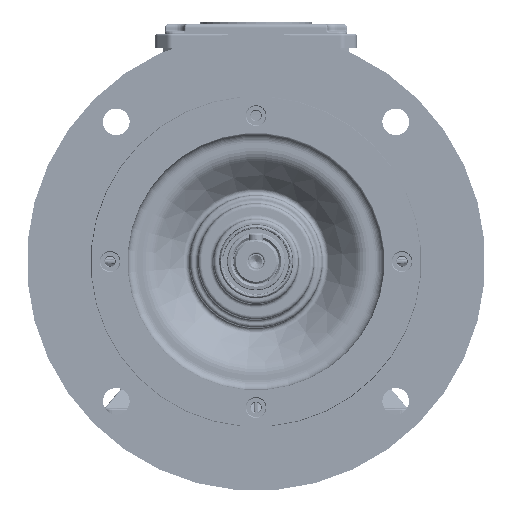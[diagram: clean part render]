
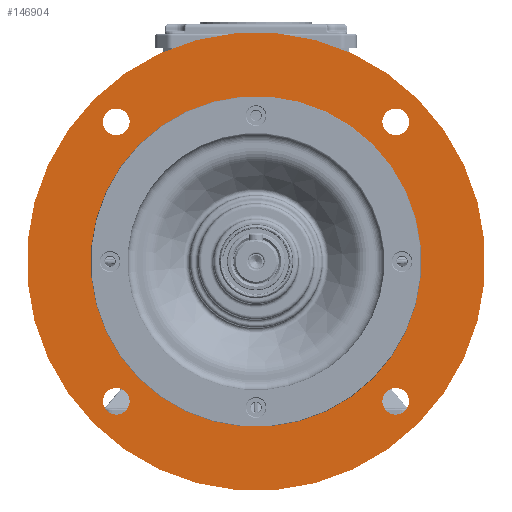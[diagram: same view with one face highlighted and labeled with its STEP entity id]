
A CAD part, left-side view. The second image highlights one B-rep face of the part: STEP entity #146904.
In plain terms, the highlighted planar face has unit normal (-1, 0, 0).
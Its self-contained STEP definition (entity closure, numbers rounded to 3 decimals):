
#46137=PLANE('',#189781);
#56745=EDGE_LOOP('',(#101426));
#56746=EDGE_LOOP('',(#101427));
#56747=EDGE_LOOP('',(#101428));
#56748=EDGE_LOOP('',(#101429));
#56749=EDGE_LOOP('',(#101430));
#56750=EDGE_LOOP('',(#101431));
#101426=ORIENTED_EDGE('',*,*,#130110,.T.);
#101427=ORIENTED_EDGE('',*,*,#130111,.T.);
#101428=ORIENTED_EDGE('',*,*,#130112,.T.);
#101429=ORIENTED_EDGE('',*,*,#130113,.T.);
#101430=ORIENTED_EDGE('',*,*,#130114,.T.);
#101431=ORIENTED_EDGE('',*,*,#130115,.F.);
#130110=EDGE_CURVE('',#163031,#163031,#172214,.T.);
#130111=EDGE_CURVE('',#163032,#163032,#172215,.T.);
#130112=EDGE_CURVE('',#163033,#163033,#172216,.T.);
#130113=EDGE_CURVE('',#163034,#163034,#172217,.T.);
#130114=EDGE_CURVE('',#163035,#163035,#172218,.T.);
#130115=EDGE_CURVE('',#163036,#163036,#172219,.T.);
#146904=ADVANCED_FACE('',(#149956,#149957,#149958,#149959,#149960,#149961),
#46137,.T.);
#149956=FACE_BOUND('',#56745,.T.);
#149957=FACE_BOUND('',#56746,.T.);
#149958=FACE_BOUND('',#56747,.T.);
#149959=FACE_BOUND('',#56748,.T.);
#149960=FACE_BOUND('',#56749,.T.);
#149961=FACE_BOUND('',#56750,.T.);
#163031=VERTEX_POINT('',#378330);
#163032=VERTEX_POINT('',#378332);
#163033=VERTEX_POINT('',#378334);
#163034=VERTEX_POINT('',#378336);
#163035=VERTEX_POINT('',#378338);
#163036=VERTEX_POINT('',#378340);
#172214=CIRCLE('',#189775,7.25);
#172215=CIRCLE('',#189776,7.25);
#172216=CIRCLE('',#189777,7.25);
#172217=CIRCLE('',#189778,7.25);
#172218=CIRCLE('',#189779,90.);
#172219=CIRCLE('',#189780,124.75);
#189775=AXIS2_PLACEMENT_3D('',#378329,#230773,#230774);
#189776=AXIS2_PLACEMENT_3D('',#378331,#230775,#230776);
#189777=AXIS2_PLACEMENT_3D('',#378333,#230777,#230778);
#189778=AXIS2_PLACEMENT_3D('',#378335,#230779,#230780);
#189779=AXIS2_PLACEMENT_3D('',#378337,#230781,#230782);
#189780=AXIS2_PLACEMENT_3D('',#378339,#230783,#230784);
#189781=AXIS2_PLACEMENT_3D('',#378341,#230785,#230786);
#230773=DIRECTION('',(1.,0.,0.));
#230774=DIRECTION('',(0.,0.707,0.707));
#230775=DIRECTION('',(1.,0.,0.));
#230776=DIRECTION('',(0.,-0.707,0.707));
#230777=DIRECTION('',(1.,0.,0.));
#230778=DIRECTION('',(0.,-0.707,-0.707));
#230779=DIRECTION('',(1.,0.,0.));
#230780=DIRECTION('',(0.,0.707,-0.707));
#230781=DIRECTION('',(1.,0.,0.));
#230782=DIRECTION('',(0.,0.707,-0.707));
#230783=DIRECTION('',(1.,0.,0.));
#230784=DIRECTION('',(0.,0.707,-0.707));
#230785=DIRECTION('',(-1.,0.,0.));
#230786=DIRECTION('',(0.,-0.707,0.707));
#378329=CARTESIAN_POINT('',(-51.499,94.284,6.397));
#378330=CARTESIAN_POINT('',(-51.499,99.41,11.523));
#378331=CARTESIAN_POINT('',(-51.499,94.284,158.425));
#378332=CARTESIAN_POINT('',(-51.499,89.157,163.551));
#378333=CARTESIAN_POINT('',(-51.499,-57.744,158.424));
#378334=CARTESIAN_POINT('',(-51.499,-62.871,153.298));
#378335=CARTESIAN_POINT('',(-51.499,-57.744,6.396));
#378336=CARTESIAN_POINT('',(-51.499,-52.617,1.27));
#378337=CARTESIAN_POINT('',(-51.499,18.27,82.411));
#378338=CARTESIAN_POINT('',(-51.499,81.91,18.771));
#378339=CARTESIAN_POINT('',(-51.499,18.27,82.411));
#378340=CARTESIAN_POINT('',(-51.499,106.482,-5.801));
#378341=CARTESIAN_POINT('',(-51.499,18.27,82.411));
